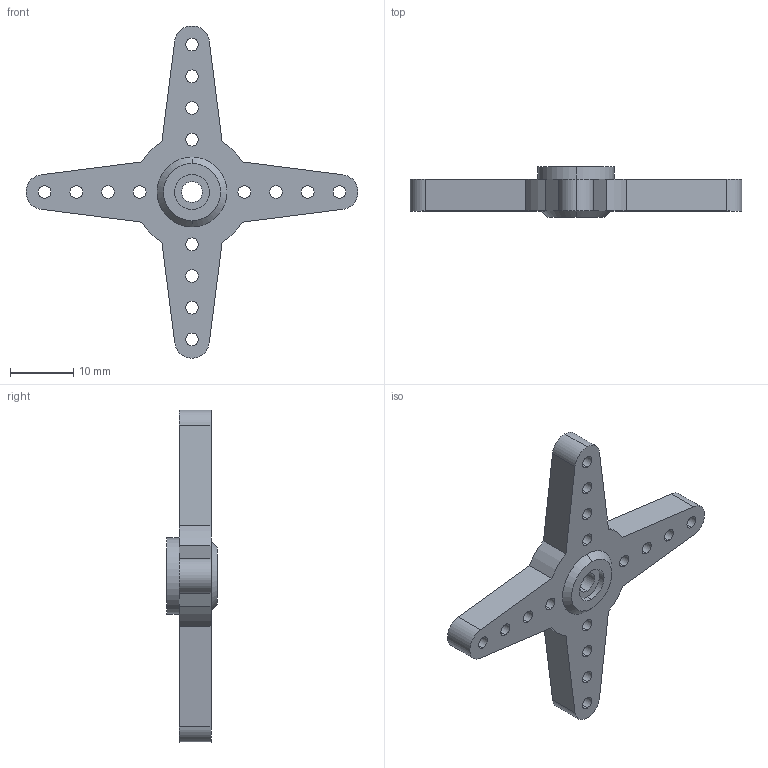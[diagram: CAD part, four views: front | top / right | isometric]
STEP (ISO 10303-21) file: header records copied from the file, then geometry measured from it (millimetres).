
FILE_DESCRIPTION (( 'STEP AP203' ), '1' );
FILE_NAME ('DS51_Start_horn.STEP', '2023-03-21T10:42:18', ( '' ), ( '' ), 'SwSTEP 2.0', 'SolidWorks 2019', '' );
FILE_SCHEMA (( 'CONFIG_CONTROL_DESIGN' ));
Length unit declared in the file: millimetre
Products named in the file (1): DS51_Start_horn
Bounding box: 52.35 x 8 x 52.36 mm (x, y, z)
Volume: 3537.7 mm3; surface area: 3132.4 mm2
Topology: 1 solids, 1 shells, 159 faces, 459 edges, 306 vertices
Faces by surface type: plane 86, cylinder 71, cone 2
Entity records: 5404 total; most frequent: DIRECTION 925, CARTESIAN_POINT 925, ORIENTED_EDGE 918, EDGE_CURVE 459, LINE 313, VECTOR 313, AXIS2_PLACEMENT_3D 306, VERTEX_POINT 306
